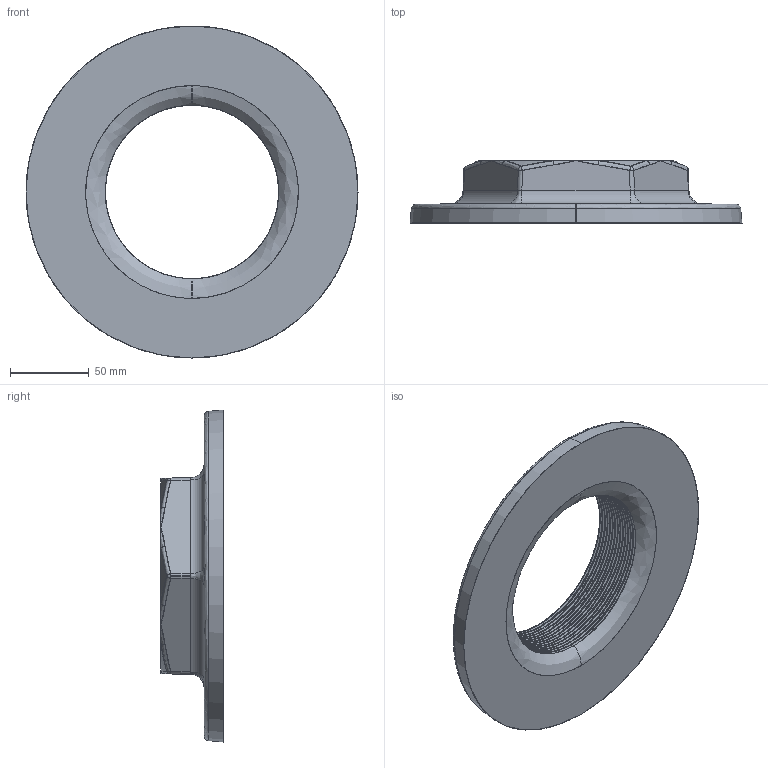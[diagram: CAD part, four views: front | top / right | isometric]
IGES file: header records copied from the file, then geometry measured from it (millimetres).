
Start section: SolidWorks IGES file using analytic representation for surfaces
Global section: file name: C:\Users\Joel Rosa\Desktop\Tubulação\12-99-OK\12-99-014.IGS; native system: SolidWorks 2011; preprocessor: SolidWorks 2011; author: Joel Rosa; date: 131021.213444; units: millimetre
Bounding box: 210.8 x 39.5 x 210.8 mm (x, y, z)
Surface area: 86827.9 mm2 (no closed solid volume)
Topology: 0 solids, 0 shells, 319 faces, 2446 edges, 2434 vertices
Faces by surface type: bspline 230, revolution 89
